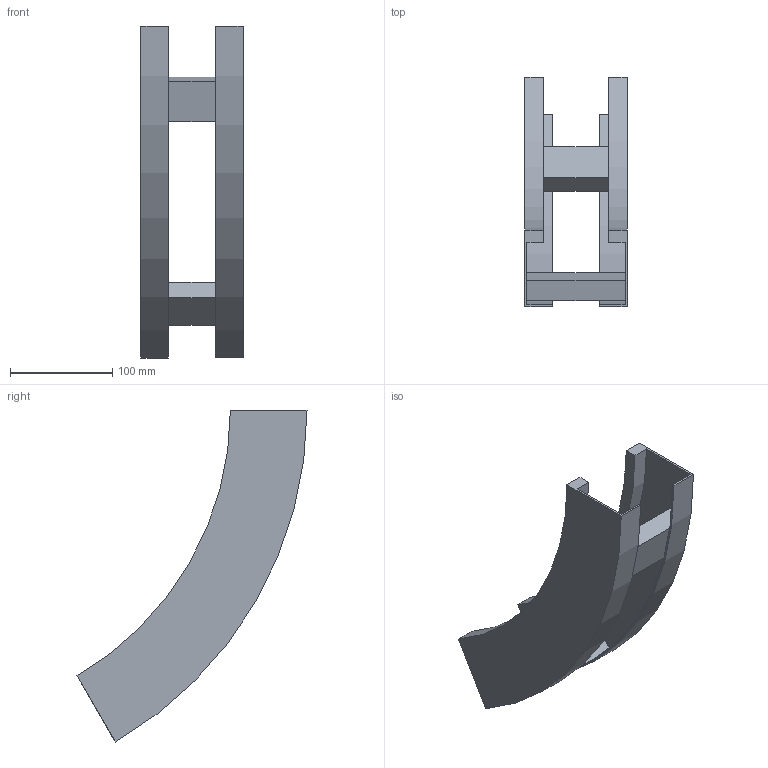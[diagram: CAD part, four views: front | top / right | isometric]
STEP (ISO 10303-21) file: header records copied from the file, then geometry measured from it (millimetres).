
FILE_DESCRIPTION (( 'STEP AP214' ), '1' );
FILE_NAME ('B2X40B3C100XX.step', '2025-03-20T10:17:41', ( '' ), ( '' ), 'SwSTEP 2.0', 'SolidWorks 2023', '' );
FILE_SCHEMA (( 'AUTOMOTIVE_DESIGN' ));
Length unit declared in the file: millimetre
Products named in the file (3): B2X40B3C100XX; B2_LONGH.SALITA_60°_H75_R300; TRAVERSINO_100
Assembly tree (4 placements, depth 2):
  B2X40B3C100XX
    B2_LONGH.SALITA_60°_H75_R300  x2
    TRAVERSINO_100  x2
Bounding box: 100 x 225 x 324.76 mm (x, y, z)
Volume: 423763.8 mm3; surface area: 196569.7 mm2
Topology: 4 solids, 4 shells, 32 faces, 72 edges, 48 vertices
Faces by surface type: plane 24, cylinder 8
Entity records: 552 total; most frequent: DIRECTION 90, CARTESIAN_POINT 83, ORIENTED_EDGE 72, EDGE_CURVE 36, AXIS2_PLACEMENT_3D 31, VECTOR 28, LINE 28, VERTEX_POINT 24
